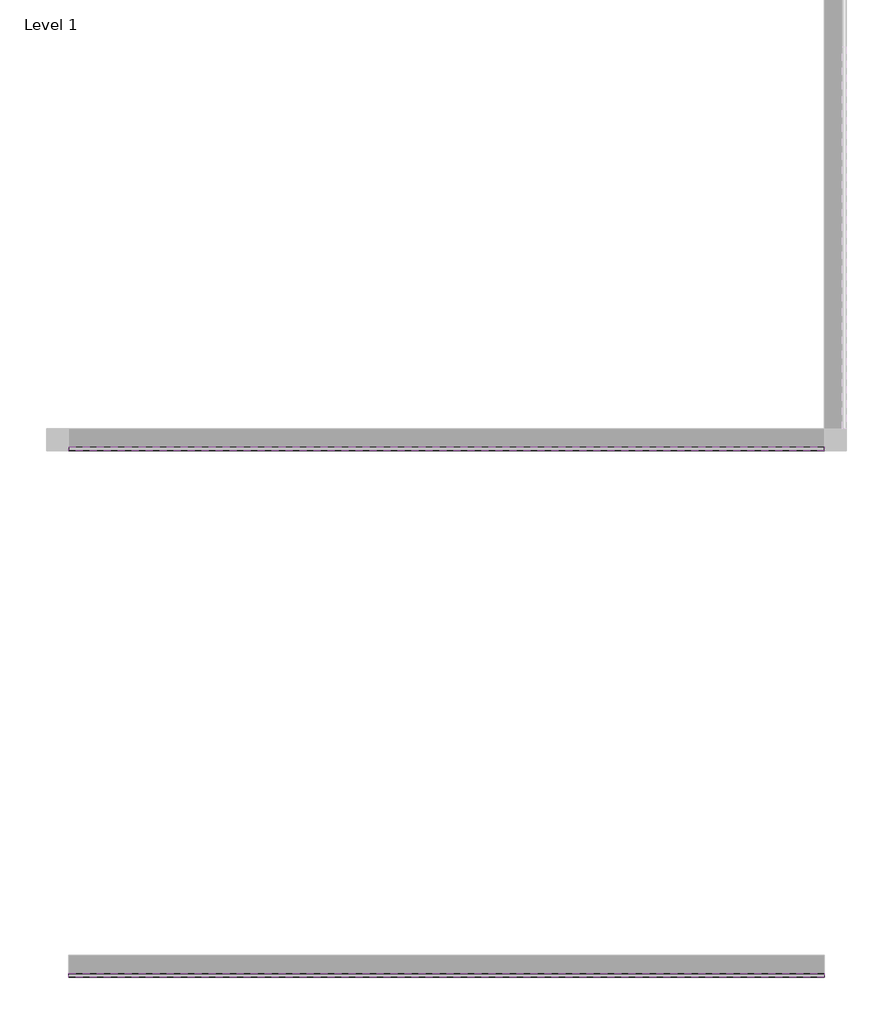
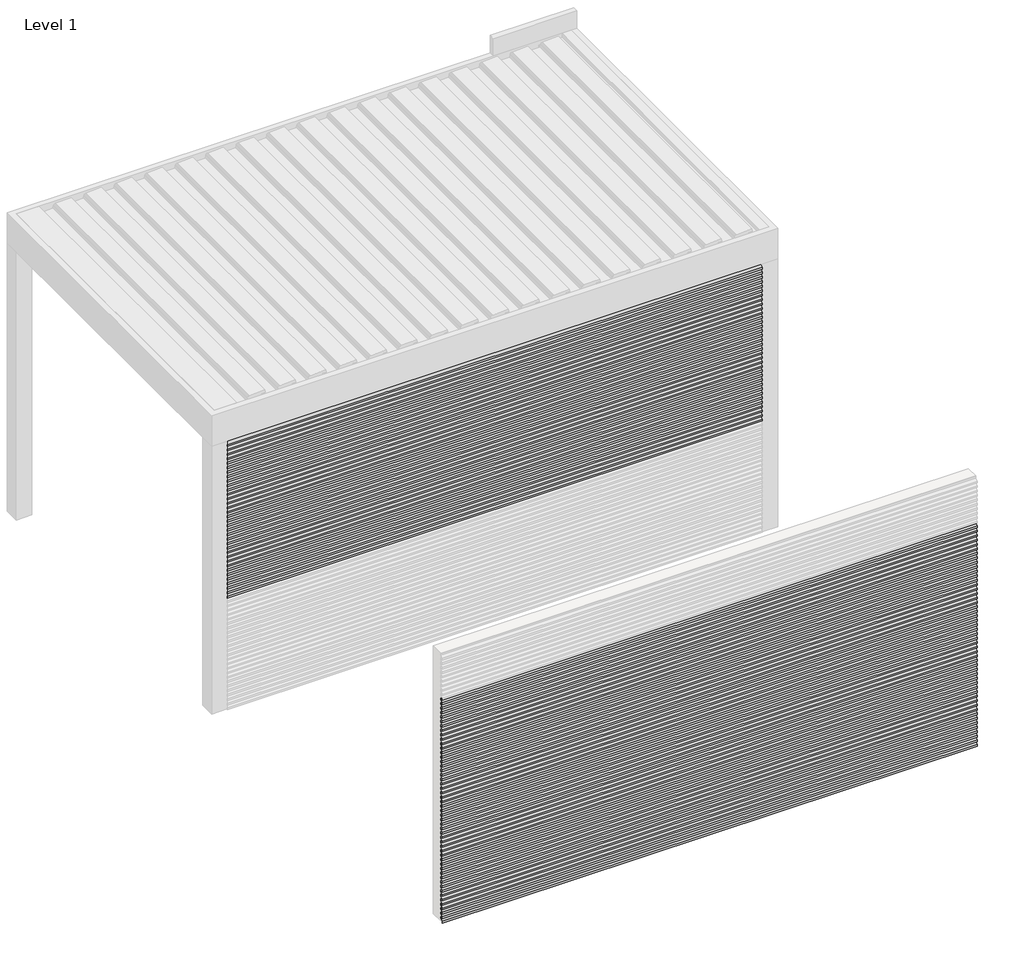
# One storey, part 36 of 47: 85 proxies.
"""IFC4 building model written with IfcOpenShell, lengths in millimetres."""

from ifc_helpers import new_model, si_unit, frame, origin, place, context, project, spatial, polyline, outline, extrude, element, save

model = new_model("IFC4")

# Units and contexts
model_context = context("Model", 3, world=origin())
ifc_project = project(units=[si_unit("LENGTHUNIT", "METRE", prefix="MILLI")], contexts=[model_context])

# Site, building, storey
site = spatial("IfcSite", under=ifc_project)
building = spatial("IfcBuilding", under=site)
storey = spatial("IfcBuildingStorey", under=building, Name="Level 1", Elevation=0.0)

# Proxies
placement = place(None, origin())
element("IfcBuildingElementProxy", 1, Name="Wall Sweeps", at=placement, inside=storey, context=model_context, shape_type="SweptSolid", body=[
    extrude(outline(polyline([(36890.3757764, 1641.0), (36909.5257764, 1652.0562577), (36909.5257764, 1665.0), (36910.7757764, 1665.0), (36910.7757764, 1651.3345698), (36891.6257764, 1640.2782281), (36891.6257764, 1628.2216933), (36890.3757764, 1627.5), (36890.3757764, 1641.0)])), frame((186472.4238385, 0.0, 0.0), z_axis=(1.0, 0.0, 0.0), x_axis=(0.0, 1.0, 0.0)), (0.0, 0.0, 1.0), 3780.0),
])
element("IfcBuildingElementProxy", 2, Name="Wall Sweeps", at=placement, inside=storey, context=model_context, shape_type="SweptSolid", body=[
    extrude(outline(polyline([(36890.3757764, 1607.7), (36909.5257764, 1618.7562577), (36909.5257764, 1631.7), (36910.7757764, 1631.7), (36910.7757764, 1618.0345698), (36891.6257764, 1606.9782281), (36891.6257764, 1594.9216933), (36890.3757764, 1594.2), (36890.3757764, 1607.7)])), frame((186472.4238385, 0.0, 0.0), z_axis=(1.0, 0.0, 0.0), x_axis=(0.0, 1.0, 0.0)), (0.0, 0.0, 1.0), 3780.0),
])
element("IfcBuildingElementProxy", 3, Name="Wall Sweeps", at=placement, inside=storey, context=model_context, shape_type="SweptSolid", body=[
    extrude(outline(polyline([(36890.3757764, 1574.4), (36909.5257764, 1585.4562577), (36909.5257764, 1598.4), (36910.7757764, 1598.4), (36910.7757764, 1584.7345698), (36891.6257764, 1573.6782281), (36891.6257764, 1561.6216933), (36890.3757764, 1560.9), (36890.3757764, 1574.4)])), frame((186472.4238385, 0.0, 0.0), z_axis=(1.0, 0.0, 0.0), x_axis=(0.0, 1.0, 0.0)), (0.0, 0.0, 1.0), 3780.0),
])
element("IfcBuildingElementProxy", 4, Name="Wall Sweeps", at=placement, inside=storey, context=model_context, shape_type="SweptSolid", body=[
    extrude(outline(polyline([(36890.3757764, 1541.1), (36909.5257764, 1552.1562577), (36909.5257764, 1565.1), (36910.7757764, 1565.1), (36910.7757764, 1551.4345698), (36891.6257764, 1540.3782281), (36891.6257764, 1528.3216933), (36890.3757764, 1527.6), (36890.3757764, 1541.1)])), frame((186472.4238385, 0.0, 0.0), z_axis=(1.0, 0.0, 0.0), x_axis=(0.0, 1.0, 0.0)), (0.0, 0.0, 1.0), 3780.0),
])
element("IfcBuildingElementProxy", 5, Name="Wall Sweeps", at=placement, inside=storey, context=model_context, shape_type="SweptSolid", body=[
    extrude(outline(polyline([(36890.3757764, 1507.8), (36909.5257764, 1518.8562577), (36909.5257764, 1531.8), (36910.7757764, 1531.8), (36910.7757764, 1518.1345698), (36891.6257764, 1507.0782281), (36891.6257764, 1495.0216933), (36890.3757764, 1494.3), (36890.3757764, 1507.8)])), frame((186472.4238385, 0.0, 0.0), z_axis=(1.0, 0.0, 0.0), x_axis=(0.0, 1.0, 0.0)), (0.0, 0.0, 1.0), 3780.0),
])
element("IfcBuildingElementProxy", 6, Name="Wall Sweeps", at=placement, inside=storey, context=model_context, shape_type="SweptSolid", body=[
    extrude(outline(polyline([(36890.3757764, 1474.5), (36909.5257764, 1485.5562577), (36909.5257764, 1498.5), (36910.7757764, 1498.5), (36910.7757764, 1484.8345698), (36891.6257764, 1473.7782281), (36891.6257764, 1461.7216933), (36890.3757764, 1461.0), (36890.3757764, 1474.5)])), frame((186472.4238385, 0.0, 0.0), z_axis=(1.0, 0.0, 0.0), x_axis=(0.0, 1.0, 0.0)), (0.0, 0.0, 1.0), 3780.0),
])
element("IfcBuildingElementProxy", 7, Name="Wall Sweeps", at=placement, inside=storey, context=model_context, shape_type="SweptSolid", body=[
    extrude(outline(polyline([(36890.3757764, 1441.2), (36909.5257764, 1452.2562577), (36909.5257764, 1465.2), (36910.7757764, 1465.2), (36910.7757764, 1451.5345698), (36891.6257764, 1440.4782281), (36891.6257764, 1428.4216933), (36890.3757764, 1427.7), (36890.3757764, 1441.2)])), frame((186472.4238385, 0.0, 0.0), z_axis=(1.0, 0.0, 0.0), x_axis=(0.0, 1.0, 0.0)), (0.0, 0.0, 1.0), 3780.0),
])
element("IfcBuildingElementProxy", 8, Name="Wall Sweeps", at=placement, inside=storey, context=model_context, shape_type="SweptSolid", body=[
    extrude(outline(polyline([(36890.3757764, 1407.9), (36909.5257764, 1418.9562577), (36909.5257764, 1431.9), (36910.7757764, 1431.9), (36910.7757764, 1418.2345698), (36891.6257764, 1407.1782281), (36891.6257764, 1395.1216933), (36890.3757764, 1394.4), (36890.3757764, 1407.9)])), frame((186472.4238385, 0.0, 0.0), z_axis=(1.0, 0.0, 0.0), x_axis=(0.0, 1.0, 0.0)), (0.0, 0.0, 1.0), 3780.0),
])
element("IfcBuildingElementProxy", 9, Name="Wall Sweeps", at=placement, inside=storey, context=model_context, shape_type="SweptSolid", body=[
    extrude(outline(polyline([(36890.3757764, 1374.6), (36909.5257764, 1385.6562577), (36909.5257764, 1398.6), (36910.7757764, 1398.6), (36910.7757764, 1384.9345698), (36891.6257764, 1373.8782281), (36891.6257764, 1361.8216933), (36890.3757764, 1361.1), (36890.3757764, 1374.6)])), frame((186472.4238385, 0.0, 0.0), z_axis=(1.0, 0.0, 0.0), x_axis=(0.0, 1.0, 0.0)), (0.0, 0.0, 1.0), 3780.0),
])
element("IfcBuildingElementProxy", 10, Name="Wall Sweeps", at=placement, inside=storey, context=model_context, shape_type="SweptSolid", body=[
    extrude(outline(polyline([(36890.3757764, 1341.3), (36909.5257764, 1352.3562577), (36909.5257764, 1365.3), (36910.7757764, 1365.3), (36910.7757764, 1351.6345698), (36891.6257764, 1340.5782281), (36891.6257764, 1328.5216933), (36890.3757764, 1327.8), (36890.3757764, 1341.3)])), frame((186472.4238385, 0.0, 0.0), z_axis=(1.0, 0.0, 0.0), x_axis=(0.0, 1.0, 0.0)), (0.0, 0.0, 1.0), 3780.0),
])
element("IfcBuildingElementProxy", 11, Name="Wall Sweeps", at=placement, inside=storey, context=model_context, shape_type="SweptSolid", body=[
    extrude(outline(polyline([(36890.3757764, 1308.0), (36909.5257764, 1319.0562577), (36909.5257764, 1332.0), (36910.7757764, 1332.0), (36910.7757764, 1318.3345698), (36891.6257764, 1307.2782281), (36891.6257764, 1295.2216933), (36890.3757764, 1294.5), (36890.3757764, 1308.0)])), frame((186472.4238385, 0.0, 0.0), z_axis=(1.0, 0.0, 0.0), x_axis=(0.0, 1.0, 0.0)), (0.0, 0.0, 1.0), 3780.0),
])
element("IfcBuildingElementProxy", 12, Name="Wall Sweeps", at=placement, inside=storey, context=model_context, shape_type="SweptSolid", body=[
    extrude(outline(polyline([(36890.3757764, 1274.7), (36909.5257764, 1285.7562577), (36909.5257764, 1298.7), (36910.7757764, 1298.7), (36910.7757764, 1285.0345698), (36891.6257764, 1273.9782281), (36891.6257764, 1261.9216933), (36890.3757764, 1261.2), (36890.3757764, 1274.7)])), frame((186472.4238385, 0.0, 0.0), z_axis=(1.0, 0.0, 0.0), x_axis=(0.0, 1.0, 0.0)), (0.0, 0.0, 1.0), 3780.0),
])
element("IfcBuildingElementProxy", 13, Name="Wall Sweeps", at=placement, inside=storey, context=model_context, shape_type="SweptSolid", body=[
    extrude(outline(polyline([(36890.3757764, 1241.4), (36909.5257764, 1252.4562577), (36909.5257764, 1265.4), (36910.7757764, 1265.4), (36910.7757764, 1251.7345698), (36891.6257764, 1240.6782281), (36891.6257764, 1228.6216933), (36890.3757764, 1227.9), (36890.3757764, 1241.4)])), frame((186472.4238385, 0.0, 0.0), z_axis=(1.0, 0.0, 0.0), x_axis=(0.0, 1.0, 0.0)), (0.0, 0.0, 1.0), 3780.0),
])
element("IfcBuildingElementProxy", 14, Name="Wall Sweeps", at=placement, inside=storey, context=model_context, shape_type="SweptSolid", body=[
    extrude(outline(polyline([(36890.3757764, 1208.1), (36909.5257764, 1219.1562577), (36909.5257764, 1232.1), (36910.7757764, 1232.1), (36910.7757764, 1218.4345698), (36891.6257764, 1207.3782281), (36891.6257764, 1195.3216933), (36890.3757764, 1194.6), (36890.3757764, 1208.1)])), frame((186472.4238385, 0.0, 0.0), z_axis=(1.0, 0.0, 0.0), x_axis=(0.0, 1.0, 0.0)), (0.0, 0.0, 1.0), 3780.0),
])
element("IfcBuildingElementProxy", 15, Name="Wall Sweeps", at=placement, inside=storey, context=model_context, shape_type="SweptSolid", body=[
    extrude(outline(polyline([(36890.3757764, 1174.8), (36909.5257764, 1185.8562577), (36909.5257764, 1198.8), (36910.7757764, 1198.8), (36910.7757764, 1185.1345698), (36891.6257764, 1174.0782281), (36891.6257764, 1162.0216933), (36890.3757764, 1161.3), (36890.3757764, 1174.8)])), frame((186472.4238385, 0.0, 0.0), z_axis=(1.0, 0.0, 0.0), x_axis=(0.0, 1.0, 0.0)), (0.0, 0.0, 1.0), 3780.0),
])
element("IfcBuildingElementProxy", 16, Name="Wall Sweeps", at=placement, inside=storey, context=model_context, shape_type="SweptSolid", body=[
    extrude(outline(polyline([(36890.3757764, 1141.5), (36909.5257764, 1152.5562577), (36909.5257764, 1165.5), (36910.7757764, 1165.5), (36910.7757764, 1151.8345698), (36891.6257764, 1140.7782281), (36891.6257764, 1128.7216933), (36890.3757764, 1128.0), (36890.3757764, 1141.5)])), frame((186472.4238385, 0.0, 0.0), z_axis=(1.0, 0.0, 0.0), x_axis=(0.0, 1.0, 0.0)), (0.0, 0.0, 1.0), 3780.0),
])
element("IfcBuildingElementProxy", 17, Name="Wall Sweeps", at=placement, inside=storey, context=model_context, shape_type="SweptSolid", body=[
    extrude(outline(polyline([(36890.3757764, 1108.2), (36909.5257764, 1119.2562577), (36909.5257764, 1132.2), (36910.7757764, 1132.2), (36910.7757764, 1118.5345698), (36891.6257764, 1107.4782281), (36891.6257764, 1095.4216933), (36890.3757764, 1094.7), (36890.3757764, 1108.2)])), frame((186472.4238385, 0.0, 0.0), z_axis=(1.0, 0.0, 0.0), x_axis=(0.0, 1.0, 0.0)), (0.0, 0.0, 1.0), 3780.0),
])
element("IfcBuildingElementProxy", 18, Name="Wall Sweeps", at=placement, inside=storey, context=model_context, shape_type="SweptSolid", body=[
    extrude(outline(polyline([(36890.3757764, 1074.9), (36909.5257764, 1085.9562577), (36909.5257764, 1098.9), (36910.7757764, 1098.9), (36910.7757764, 1085.2345698), (36891.6257764, 1074.1782281), (36891.6257764, 1062.1216933), (36890.3757764, 1061.4), (36890.3757764, 1074.9)])), frame((186472.4238385, 0.0, 0.0), z_axis=(1.0, 0.0, 0.0), x_axis=(0.0, 1.0, 0.0)), (0.0, 0.0, 1.0), 3780.0),
])
element("IfcBuildingElementProxy", 19, Name="Wall Sweeps", at=placement, inside=storey, context=model_context, shape_type="SweptSolid", body=[
    extrude(outline(polyline([(36890.3757764, 1041.6), (36909.5257764, 1052.6562577), (36909.5257764, 1065.6), (36910.7757764, 1065.6), (36910.7757764, 1051.9345698), (36891.6257764, 1040.8782281), (36891.6257764, 1028.8216933), (36890.3757764, 1028.1), (36890.3757764, 1041.6)])), frame((186472.4238385, 0.0, 0.0), z_axis=(1.0, 0.0, 0.0), x_axis=(0.0, 1.0, 0.0)), (0.0, 0.0, 1.0), 3780.0),
])
element("IfcBuildingElementProxy", 20, Name="Wall Sweeps", at=placement, inside=storey, context=model_context, shape_type="SweptSolid", body=[
    extrude(outline(polyline([(36890.3757764, 1008.3), (36909.5257764, 1019.3562577), (36909.5257764, 1032.3), (36910.7757764, 1032.3), (36910.7757764, 1018.6345698), (36891.6257764, 1007.5782281), (36891.6257764, 995.5216933), (36890.3757764, 994.8), (36890.3757764, 1008.3)])), frame((186472.4238385, 0.0, 0.0), z_axis=(1.0, 0.0, 0.0), x_axis=(0.0, 1.0, 0.0)), (0.0, 0.0, 1.0), 3780.0),
])
element("IfcBuildingElementProxy", 21, Name="Wall Sweeps", at=placement, inside=storey, context=model_context, shape_type="SweptSolid", body=[
    extrude(outline(polyline([(36890.3757764, 975.0), (36909.5257764, 986.0562577), (36909.5257764, 999.0), (36910.7757764, 999.0), (36910.7757764, 985.3345698), (36891.6257764, 974.2782281), (36891.6257764, 962.2216933), (36890.3757764, 961.5), (36890.3757764, 975.0)])), frame((186472.4238385, 0.0, 0.0), z_axis=(1.0, 0.0, 0.0), x_axis=(0.0, 1.0, 0.0)), (0.0, 0.0, 1.0), 3780.0),
])
element("IfcBuildingElementProxy", 22, Name="Wall Sweeps", at=placement, inside=storey, context=model_context, shape_type="SweptSolid", body=[
    extrude(outline(polyline([(36890.3757764, 941.7), (36909.5257764, 952.7562577), (36909.5257764, 965.7), (36910.7757764, 965.7), (36910.7757764, 952.0345698), (36891.6257764, 940.9782281), (36891.6257764, 928.9216933), (36890.3757764, 928.2), (36890.3757764, 941.7)])), frame((186472.4238385, 0.0, 0.0), z_axis=(1.0, 0.0, 0.0), x_axis=(0.0, 1.0, 0.0)), (0.0, 0.0, 1.0), 3780.0),
])
element("IfcBuildingElementProxy", 23, Name="Wall Sweeps", at=placement, inside=storey, context=model_context, shape_type="SweptSolid", body=[
    extrude(outline(polyline([(36890.3757764, 908.4), (36909.5257764, 919.4562577), (36909.5257764, 932.4), (36910.7757764, 932.4), (36910.7757764, 918.7345698), (36891.6257764, 907.6782281), (36891.6257764, 895.6216933), (36890.3757764, 894.9), (36890.3757764, 908.4)])), frame((186472.4238385, 0.0, 0.0), z_axis=(1.0, 0.0, 0.0), x_axis=(0.0, 1.0, 0.0)), (0.0, 0.0, 1.0), 3780.0),
])
element("IfcBuildingElementProxy", 24, Name="Wall Sweeps", at=placement, inside=storey, context=model_context, shape_type="SweptSolid", body=[
    extrude(outline(polyline([(36890.3757764, 875.1), (36909.5257764, 886.1562577), (36909.5257764, 899.1), (36910.7757764, 899.1), (36910.7757764, 885.4345698), (36891.6257764, 874.3782281), (36891.6257764, 862.3216933), (36890.3757764, 861.6), (36890.3757764, 875.1)])), frame((186472.4238385, 0.0, 0.0), z_axis=(1.0, 0.0, 0.0), x_axis=(0.0, 1.0, 0.0)), (0.0, 0.0, 1.0), 3780.0),
])
element("IfcBuildingElementProxy", 25, Name="Wall Sweeps", at=placement, inside=storey, context=model_context, shape_type="SweptSolid", body=[
    extrude(outline(polyline([(36890.3757764, 841.8), (36909.5257764, 852.8562577), (36909.5257764, 865.8), (36910.7757764, 865.8), (36910.7757764, 852.1345698), (36891.6257764, 841.0782281), (36891.6257764, 829.0216933), (36890.3757764, 828.3), (36890.3757764, 841.8)])), frame((186472.4238385, 0.0, 0.0), z_axis=(1.0, 0.0, 0.0), x_axis=(0.0, 1.0, 0.0)), (0.0, 0.0, 1.0), 3780.0),
])
element("IfcBuildingElementProxy", 26, Name="Wall Sweeps", at=placement, inside=storey, context=model_context, shape_type="SweptSolid", body=[
    extrude(outline(polyline([(36890.3757764, 808.5), (36909.5257764, 819.5562577), (36909.5257764, 832.5), (36910.7757764, 832.5), (36910.7757764, 818.8345698), (36891.6257764, 807.7782281), (36891.6257764, 795.7216933), (36890.3757764, 795.0), (36890.3757764, 808.5)])), frame((186472.4238385, 0.0, 0.0), z_axis=(1.0, 0.0, 0.0), x_axis=(0.0, 1.0, 0.0)), (0.0, 0.0, 1.0), 3780.0),
])
element("IfcBuildingElementProxy", 27, Name="Wall Sweeps", at=placement, inside=storey, context=model_context, shape_type="SweptSolid", body=[
    extrude(outline(polyline([(36890.3757764, 775.2), (36909.5257764, 786.2562577), (36909.5257764, 799.2), (36910.7757764, 799.2), (36910.7757764, 785.5345698), (36891.6257764, 774.4782281), (36891.6257764, 762.4216933), (36890.3757764, 761.7), (36890.3757764, 775.2)])), frame((186472.4238385, 0.0, 0.0), z_axis=(1.0, 0.0, 0.0), x_axis=(0.0, 1.0, 0.0)), (0.0, 0.0, 1.0), 3780.0),
])
element("IfcBuildingElementProxy", 28, Name="Wall Sweeps", at=placement, inside=storey, context=model_context, shape_type="SweptSolid", body=[
    extrude(outline(polyline([(36890.3757764, 741.9), (36909.5257764, 752.9562577), (36909.5257764, 765.9), (36910.7757764, 765.9), (36910.7757764, 752.2345698), (36891.6257764, 741.1782281), (36891.6257764, 729.1216933), (36890.3757764, 728.4), (36890.3757764, 741.9)])), frame((186472.4238385, 0.0, 0.0), z_axis=(1.0, 0.0, 0.0), x_axis=(0.0, 1.0, 0.0)), (0.0, 0.0, 1.0), 3780.0),
])
element("IfcBuildingElementProxy", 29, Name="Wall Sweeps", at=placement, inside=storey, context=model_context, shape_type="SweptSolid", body=[
    extrude(outline(polyline([(36890.3757764, 708.6), (36909.5257764, 719.6562577), (36909.5257764, 732.6), (36910.7757764, 732.6), (36910.7757764, 718.9345698), (36891.6257764, 707.8782281), (36891.6257764, 695.8216933), (36890.3757764, 695.1), (36890.3757764, 708.6)])), frame((186472.4238385, 0.0, 0.0), z_axis=(1.0, 0.0, 0.0), x_axis=(0.0, 1.0, 0.0)), (0.0, 0.0, 1.0), 3780.0),
])
element("IfcBuildingElementProxy", 30, Name="Wall Sweeps", at=placement, inside=storey, context=model_context, shape_type="SweptSolid", body=[
    extrude(outline(polyline([(36890.3757764, 675.3), (36909.5257764, 686.3562577), (36909.5257764, 699.3), (36910.7757764, 699.3), (36910.7757764, 685.6345698), (36891.6257764, 674.5782281), (36891.6257764, 662.5216933), (36890.3757764, 661.8), (36890.3757764, 675.3)])), frame((186472.4238385, 0.0, 0.0), z_axis=(1.0, 0.0, 0.0), x_axis=(0.0, 1.0, 0.0)), (0.0, 0.0, 1.0), 3780.0),
])
element("IfcBuildingElementProxy", 31, Name="Wall Sweeps", at=placement, inside=storey, context=model_context, shape_type="SweptSolid", body=[
    extrude(outline(polyline([(36890.3757764, 642.0), (36909.5257764, 653.0562577), (36909.5257764, 666.0), (36910.7757764, 666.0), (36910.7757764, 652.3345698), (36891.6257764, 641.2782281), (36891.6257764, 629.2216933), (36890.3757764, 628.5), (36890.3757764, 642.0)])), frame((186472.4238385, 0.0, 0.0), z_axis=(1.0, 0.0, 0.0), x_axis=(0.0, 1.0, 0.0)), (0.0, 0.0, 1.0), 3780.0),
])
element("IfcBuildingElementProxy", 32, Name="Wall Sweeps", at=placement, inside=storey, context=model_context, shape_type="SweptSolid", body=[
    extrude(outline(polyline([(36890.3757764, 608.7), (36909.5257764, 619.7562577), (36909.5257764, 632.7), (36910.7757764, 632.7), (36910.7757764, 619.0345698), (36891.6257764, 607.9782281), (36891.6257764, 595.9216933), (36890.3757764, 595.2), (36890.3757764, 608.7)])), frame((186472.4238385, 0.0, 0.0), z_axis=(1.0, 0.0, 0.0), x_axis=(0.0, 1.0, 0.0)), (0.0, 0.0, 1.0), 3780.0),
])
element("IfcBuildingElementProxy", 33, Name="Wall Sweeps", at=placement, inside=storey, context=model_context, shape_type="SweptSolid", body=[
    extrude(outline(polyline([(36890.3757764, 575.4), (36909.5257764, 586.4562577), (36909.5257764, 599.4), (36910.7757764, 599.4), (36910.7757764, 585.7345698), (36891.6257764, 574.6782281), (36891.6257764, 562.6216933), (36890.3757764, 561.9), (36890.3757764, 575.4)])), frame((186472.4238385, 0.0, 0.0), z_axis=(1.0, 0.0, 0.0), x_axis=(0.0, 1.0, 0.0)), (0.0, 0.0, 1.0), 3780.0),
])
element("IfcBuildingElementProxy", 34, Name="Wall Sweeps", at=placement, inside=storey, context=model_context, shape_type="SweptSolid", body=[
    extrude(outline(polyline([(36890.3757764, 542.1), (36909.5257764, 553.1562577), (36909.5257764, 566.1), (36910.7757764, 566.1), (36910.7757764, 552.4345698), (36891.6257764, 541.3782281), (36891.6257764, 529.3216933), (36890.3757764, 528.6), (36890.3757764, 542.1)])), frame((186472.4238385, 0.0, 0.0), z_axis=(1.0, 0.0, 0.0), x_axis=(0.0, 1.0, 0.0)), (0.0, 0.0, 1.0), 3780.0),
])
element("IfcBuildingElementProxy", 35, Name="Wall Sweeps", at=placement, inside=storey, context=model_context, shape_type="SweptSolid", body=[
    extrude(outline(polyline([(36890.3757764, 508.8), (36909.5257764, 519.8562577), (36909.5257764, 532.8), (36910.7757764, 532.8), (36910.7757764, 519.1345698), (36891.6257764, 508.0782281), (36891.6257764, 496.0216933), (36890.3757764, 495.3), (36890.3757764, 508.8)])), frame((186472.4238385, 0.0, 0.0), z_axis=(1.0, 0.0, 0.0), x_axis=(0.0, 1.0, 0.0)), (0.0, 0.0, 1.0), 3780.0),
])
element("IfcBuildingElementProxy", 36, Name="Wall Sweeps", at=placement, inside=storey, context=model_context, shape_type="SweptSolid", body=[
    extrude(outline(polyline([(36890.3757764, 475.5), (36909.5257764, 486.5562577), (36909.5257764, 499.5), (36910.7757764, 499.5), (36910.7757764, 485.8345698), (36891.6257764, 474.7782281), (36891.6257764, 462.7216933), (36890.3757764, 462.0), (36890.3757764, 475.5)])), frame((186472.4238385, 0.0, 0.0), z_axis=(1.0, 0.0, 0.0), x_axis=(0.0, 1.0, 0.0)), (0.0, 0.0, 1.0), 3780.0),
])
element("IfcBuildingElementProxy", 37, Name="Wall Sweeps", at=placement, inside=storey, context=model_context, shape_type="SweptSolid", body=[
    extrude(outline(polyline([(36890.3757764, 442.2), (36909.5257764, 453.2562577), (36909.5257764, 466.2), (36910.7757764, 466.2), (36910.7757764, 452.5345698), (36891.6257764, 441.4782281), (36891.6257764, 429.4216933), (36890.3757764, 428.7), (36890.3757764, 442.2)])), frame((186472.4238385, 0.0, 0.0), z_axis=(1.0, 0.0, 0.0), x_axis=(0.0, 1.0, 0.0)), (0.0, 0.0, 1.0), 3780.0),
])
element("IfcBuildingElementProxy", 38, Name="Wall Sweeps", at=placement, inside=storey, context=model_context, shape_type="SweptSolid", body=[
    extrude(outline(polyline([(36890.3757764, 408.9), (36909.5257764, 419.9562577), (36909.5257764, 432.9), (36910.7757764, 432.9), (36910.7757764, 419.2345698), (36891.6257764, 408.1782281), (36891.6257764, 396.1216933), (36890.3757764, 395.4), (36890.3757764, 408.9)])), frame((186472.4238385, 0.0, 0.0), z_axis=(1.0, 0.0, 0.0), x_axis=(0.0, 1.0, 0.0)), (0.0, 0.0, 1.0), 3780.0),
])
element("IfcBuildingElementProxy", 39, Name="Wall Sweeps", at=placement, inside=storey, context=model_context, shape_type="SweptSolid", body=[
    extrude(outline(polyline([(36890.3757764, 375.6), (36909.5257764, 386.6562577), (36909.5257764, 399.6), (36910.7757764, 399.6), (36910.7757764, 385.9345698), (36891.6257764, 374.8782281), (36891.6257764, 362.8216933), (36890.3757764, 362.1), (36890.3757764, 375.6)])), frame((186472.4238385, 0.0, 0.0), z_axis=(1.0, 0.0, 0.0), x_axis=(0.0, 1.0, 0.0)), (0.0, 0.0, 1.0), 3780.0),
])
element("IfcBuildingElementProxy", 40, Name="Wall Sweeps", at=placement, inside=storey, context=model_context, shape_type="SweptSolid", body=[
    extrude(outline(polyline([(36890.3757764, 342.3), (36909.5257764, 353.3562577), (36909.5257764, 366.3), (36910.7757764, 366.3), (36910.7757764, 352.6345698), (36891.6257764, 341.5782281), (36891.6257764, 329.5216933), (36890.3757764, 328.8), (36890.3757764, 342.3)])), frame((186472.4238385, 0.0, 0.0), z_axis=(1.0, 0.0, 0.0), x_axis=(0.0, 1.0, 0.0)), (0.0, 0.0, 1.0), 3780.0),
])
element("IfcBuildingElementProxy", 41, Name="Wall Sweeps", at=placement, inside=storey, context=model_context, shape_type="SweptSolid", body=[
    extrude(outline(polyline([(36890.3757764, 309.0), (36909.5257764, 320.0562577), (36909.5257764, 333.0), (36910.7757764, 333.0), (36910.7757764, 319.3345698), (36891.6257764, 308.2782281), (36891.6257764, 296.2216933), (36890.3757764, 295.5), (36890.3757764, 309.0)])), frame((186472.4238385, 0.0, 0.0), z_axis=(1.0, 0.0, 0.0), x_axis=(0.0, 1.0, 0.0)), (0.0, 0.0, 1.0), 3780.0),
])
element("IfcBuildingElementProxy", 42, Name="Wall Sweeps", at=placement, inside=storey, context=model_context, shape_type="SweptSolid", body=[
    extrude(outline(polyline([(36890.3757764, 275.7), (36909.5257764, 286.7562577), (36909.5257764, 299.7), (36910.7757764, 299.7), (36910.7757764, 286.0345698), (36891.6257764, 274.9782281), (36891.6257764, 262.9216933), (36890.3757764, 262.2), (36890.3757764, 275.7)])), frame((186472.4238385, 0.0, 0.0), z_axis=(1.0, 0.0, 0.0), x_axis=(0.0, 1.0, 0.0)), (0.0, 0.0, 1.0), 3780.0),
])
element("IfcBuildingElementProxy", 43, Name="Wall Sweeps", at=placement, inside=storey, context=model_context, shape_type="SweptSolid", body=[
    extrude(outline(polyline([(36890.3757764, 242.4), (36909.5257764, 253.4562577), (36909.5257764, 266.4), (36910.7757764, 266.4), (36910.7757764, 252.7345698), (36891.6257764, 241.6782281), (36891.6257764, 229.6216933), (36890.3757764, 228.9), (36890.3757764, 242.4)])), frame((186472.4238385, 0.0, 0.0), z_axis=(1.0, 0.0, 0.0), x_axis=(0.0, 1.0, 0.0)), (0.0, 0.0, 1.0), 3780.0),
])
element("IfcBuildingElementProxy", 44, Name="Wall Sweeps", at=placement, inside=storey, context=model_context, shape_type="SweptSolid", body=[
    extrude(outline(polyline([(36890.3757764, 209.1), (36909.5257764, 220.1562577), (36909.5257764, 233.1), (36910.7757764, 233.1), (36910.7757764, 219.4345698), (36891.6257764, 208.3782281), (36891.6257764, 196.3216933), (36890.3757764, 195.6), (36890.3757764, 209.1)])), frame((186472.4238385, 0.0, 0.0), z_axis=(1.0, 0.0, 0.0), x_axis=(0.0, 1.0, 0.0)), (0.0, 0.0, 1.0), 3780.0),
])
element("IfcBuildingElementProxy", 45, Name="Wall Sweeps", at=placement, inside=storey, context=model_context, shape_type="SweptSolid", body=[
    extrude(outline(polyline([(36890.3757764, 175.8), (36909.5257764, 186.8562577), (36909.5257764, 199.8), (36910.7757764, 199.8), (36910.7757764, 186.1345698), (36891.6257764, 175.0782281), (36891.6257764, 163.0216933), (36890.3757764, 162.3), (36890.3757764, 175.8)])), frame((186472.4238385, 0.0, 0.0), z_axis=(1.0, 0.0, 0.0), x_axis=(0.0, 1.0, 0.0)), (0.0, 0.0, 1.0), 3780.0),
])
element("IfcBuildingElementProxy", 46, Name="Wall Sweeps", at=placement, inside=storey, context=model_context, shape_type="SweptSolid", body=[
    extrude(outline(polyline([(36890.3757764, 142.5), (36909.5257764, 153.5562577), (36909.5257764, 166.5), (36910.7757764, 166.5), (36910.7757764, 152.8345698), (36891.6257764, 141.7782281), (36891.6257764, 129.7216933), (36890.3757764, 129.0), (36890.3757764, 142.5)])), frame((186472.4238385, 0.0, 0.0), z_axis=(1.0, 0.0, 0.0), x_axis=(0.0, 1.0, 0.0)), (0.0, 0.0, 1.0), 3780.0),
])
element("IfcBuildingElementProxy", 47, Name="Wall Sweeps", at=placement, inside=storey, context=model_context, shape_type="SweptSolid", body=[
    extrude(outline(polyline([(36890.3757764, 109.2), (36909.5257764, 120.2562577), (36909.5257764, 133.2), (36910.7757764, 133.2), (36910.7757764, 119.5345698), (36891.6257764, 108.4782281), (36891.6257764, 96.4216933), (36890.3757764, 95.7), (36890.3757764, 109.2)])), frame((186472.4238385, 0.0, 0.0), z_axis=(1.0, 0.0, 0.0), x_axis=(0.0, 1.0, 0.0)), (0.0, 0.0, 1.0), 3780.0),
])
element("IfcBuildingElementProxy", 48, Name="Wall Sweeps", at=placement, inside=storey, context=model_context, shape_type="SweptSolid", body=[
    extrude(outline(polyline([(36890.3757764, 75.9), (36909.5257764, 86.9562577), (36909.5257764, 99.9), (36910.7757764, 99.9), (36910.7757764, 86.2345698), (36891.6257764, 75.1782281), (36891.6257764, 63.1216933), (36890.3757764, 62.4), (36890.3757764, 75.9)])), frame((186472.4238385, 0.0, 0.0), z_axis=(1.0, 0.0, 0.0), x_axis=(0.0, 1.0, 0.0)), (0.0, 0.0, 1.0), 3780.0),
])
element("IfcBuildingElementProxy", 49, Name="Wall Sweeps", at=placement, inside=storey, context=model_context, shape_type="SweptSolid", body=[
    extrude(outline(polyline([(36890.3757764, 42.6), (36909.5257764, 53.6562577), (36909.5257764, 66.6), (36910.7757764, 66.6), (36910.7757764, 52.9345698), (36891.6257764, 41.8782281), (36891.6257764, 29.8216933), (36890.3757764, 29.1), (36890.3757764, 42.6)])), frame((186472.4238385, 0.0, 0.0), z_axis=(1.0, 0.0, 0.0), x_axis=(0.0, 1.0, 0.0)), (0.0, 0.0, 1.0), 3780.0),
])
element("IfcBuildingElementProxy", 50, Name="Wall Sweeps", at=placement, inside=storey, context=model_context, shape_type="SweptSolid", body=[
    extrude(outline(polyline([(36890.3757764, 9.3), (36909.5257764, 20.3562577), (36909.5257764, 33.3), (36910.7757764, 33.3), (36910.7757764, 19.6345698), (36891.6257764, 8.5782281), (36891.6257764, -3.4783067), (36890.3757764, -4.2), (36890.3757764, 9.3)])), frame((186472.4238385, 0.0, 0.0), z_axis=(1.0, 0.0, 0.0), x_axis=(0.0, 1.0, 0.0)), (0.0, 0.0, 1.0), 3780.0),
])
element("IfcBuildingElementProxy", 51, Name="Wall Sweeps", at=placement, inside=storey, context=model_context, shape_type="SweptSolid", body=[
    extrude(outline(polyline([(39522.1593685, 1974.0), (39541.3093685, 1985.0562577), (39541.3093685, 1998.0), (39542.5593685, 1998.0), (39542.5593685, 1984.3345698), (39523.4093685, 1973.2782281), (39523.4093685, 1961.2216933), (39522.1593685, 1960.5), (39522.1593685, 1974.0)])), frame((186472.4238385, 0.0, 0.0), z_axis=(1.0, 0.0, 0.0), x_axis=(0.0, 1.0, 0.0)), (0.0, 0.0, 1.0), 3780.0),
])
element("IfcBuildingElementProxy", 52, Name="Wall Sweeps", at=placement, inside=storey, context=model_context, shape_type="SweptSolid", body=[
    extrude(outline(polyline([(39522.1593685, 1940.7), (39541.3093685, 1951.7562577), (39541.3093685, 1964.7), (39542.5593685, 1964.7), (39542.5593685, 1951.0345698), (39523.4093685, 1939.9782281), (39523.4093685, 1927.9216933), (39522.1593685, 1927.2), (39522.1593685, 1940.7)])), frame((186472.4238385, 0.0, 0.0), z_axis=(1.0, 0.0, 0.0), x_axis=(0.0, 1.0, 0.0)), (0.0, 0.0, 1.0), 3780.0),
])
element("IfcBuildingElementProxy", 53, Name="Wall Sweeps", at=placement, inside=storey, context=model_context, shape_type="SweptSolid", body=[
    extrude(outline(polyline([(39522.1593685, 1907.4), (39541.3093685, 1918.4562577), (39541.3093685, 1931.4), (39542.5593685, 1931.4), (39542.5593685, 1917.7345698), (39523.4093685, 1906.6782281), (39523.4093685, 1894.6216933), (39522.1593685, 1893.9), (39522.1593685, 1907.4)])), frame((186472.4238385, 0.0, 0.0), z_axis=(1.0, 0.0, 0.0), x_axis=(0.0, 1.0, 0.0)), (0.0, 0.0, 1.0), 3780.0),
])
element("IfcBuildingElementProxy", 54, Name="Wall Sweeps", at=placement, inside=storey, context=model_context, shape_type="SweptSolid", body=[
    extrude(outline(polyline([(39522.1593685, 1874.1), (39541.3093685, 1885.1562577), (39541.3093685, 1898.1), (39542.5593685, 1898.1), (39542.5593685, 1884.4345698), (39523.4093685, 1873.3782281), (39523.4093685, 1861.3216933), (39522.1593685, 1860.6), (39522.1593685, 1874.1)])), frame((186472.4238385, 0.0, 0.0), z_axis=(1.0, 0.0, 0.0), x_axis=(0.0, 1.0, 0.0)), (0.0, 0.0, 1.0), 3780.0),
])
element("IfcBuildingElementProxy", 55, Name="Wall Sweeps", at=placement, inside=storey, context=model_context, shape_type="SweptSolid", body=[
    extrude(outline(polyline([(39522.1593685, 1840.8), (39541.3093685, 1851.8562577), (39541.3093685, 1864.8), (39542.5593685, 1864.8), (39542.5593685, 1851.1345698), (39523.4093685, 1840.0782281), (39523.4093685, 1828.0216933), (39522.1593685, 1827.3), (39522.1593685, 1840.8)])), frame((186472.4238385, 0.0, 0.0), z_axis=(1.0, 0.0, 0.0), x_axis=(0.0, 1.0, 0.0)), (0.0, 0.0, 1.0), 3780.0),
])
element("IfcBuildingElementProxy", 56, Name="Wall Sweeps", at=placement, inside=storey, context=model_context, shape_type="SweptSolid", body=[
    extrude(outline(polyline([(39522.1593685, 1807.5), (39541.3093685, 1818.5562577), (39541.3093685, 1831.5), (39542.5593685, 1831.5), (39542.5593685, 1817.8345698), (39523.4093685, 1806.7782281), (39523.4093685, 1794.7216933), (39522.1593685, 1794.0), (39522.1593685, 1807.5)])), frame((186472.4238385, 0.0, 0.0), z_axis=(1.0, 0.0, 0.0), x_axis=(0.0, 1.0, 0.0)), (0.0, 0.0, 1.0), 3780.0),
])
element("IfcBuildingElementProxy", 57, Name="Wall Sweeps", at=placement, inside=storey, context=model_context, shape_type="SweptSolid", body=[
    extrude(outline(polyline([(39522.1593685, 1774.2), (39541.3093685, 1785.2562577), (39541.3093685, 1798.2), (39542.5593685, 1798.2), (39542.5593685, 1784.5345698), (39523.4093685, 1773.4782281), (39523.4093685, 1761.4216933), (39522.1593685, 1760.7), (39522.1593685, 1774.2)])), frame((186472.4238385, 0.0, 0.0), z_axis=(1.0, 0.0, 0.0), x_axis=(0.0, 1.0, 0.0)), (0.0, 0.0, 1.0), 3780.0),
])
element("IfcBuildingElementProxy", 58, Name="Wall Sweeps", at=placement, inside=storey, context=model_context, shape_type="SweptSolid", body=[
    extrude(outline(polyline([(39522.1593685, 1740.9), (39541.3093685, 1751.9562577), (39541.3093685, 1764.9), (39542.5593685, 1764.9), (39542.5593685, 1751.2345698), (39523.4093685, 1740.1782281), (39523.4093685, 1728.1216933), (39522.1593685, 1727.4), (39522.1593685, 1740.9)])), frame((186472.4238385, 0.0, 0.0), z_axis=(1.0, 0.0, 0.0), x_axis=(0.0, 1.0, 0.0)), (0.0, 0.0, 1.0), 3780.0),
])
element("IfcBuildingElementProxy", 59, Name="Wall Sweeps", at=placement, inside=storey, context=model_context, shape_type="SweptSolid", body=[
    extrude(outline(polyline([(39522.1593685, 1707.6), (39541.3093685, 1718.6562577), (39541.3093685, 1731.6), (39542.5593685, 1731.6), (39542.5593685, 1717.9345698), (39523.4093685, 1706.8782281), (39523.4093685, 1694.8216933), (39522.1593685, 1694.1), (39522.1593685, 1707.6)])), frame((186472.4238385, 0.0, 0.0), z_axis=(1.0, 0.0, 0.0), x_axis=(0.0, 1.0, 0.0)), (0.0, 0.0, 1.0), 3780.0),
])
element("IfcBuildingElementProxy", 60, Name="Wall Sweeps", at=placement, inside=storey, context=model_context, shape_type="SweptSolid", body=[
    extrude(outline(polyline([(39522.1593685, 1674.3), (39541.3093685, 1685.3562577), (39541.3093685, 1698.3), (39542.5593685, 1698.3), (39542.5593685, 1684.6345698), (39523.4093685, 1673.5782281), (39523.4093685, 1661.5216933), (39522.1593685, 1660.8), (39522.1593685, 1674.3)])), frame((186472.4238385, 0.0, 0.0), z_axis=(1.0, 0.0, 0.0), x_axis=(0.0, 1.0, 0.0)), (0.0, 0.0, 1.0), 3780.0),
])
element("IfcBuildingElementProxy", 61, Name="Wall Sweeps", at=placement, inside=storey, context=model_context, shape_type="SweptSolid", body=[
    extrude(outline(polyline([(39522.1593685, 1641.0), (39541.3093685, 1652.0562577), (39541.3093685, 1665.0), (39542.5593685, 1665.0), (39542.5593685, 1651.3345698), (39523.4093685, 1640.2782281), (39523.4093685, 1628.2216933), (39522.1593685, 1627.5), (39522.1593685, 1641.0)])), frame((186472.4238385, 0.0, 0.0), z_axis=(1.0, 0.0, 0.0), x_axis=(0.0, 1.0, 0.0)), (0.0, 0.0, 1.0), 3780.0),
])
element("IfcBuildingElementProxy", 62, Name="Wall Sweeps", at=placement, inside=storey, context=model_context, shape_type="SweptSolid", body=[
    extrude(outline(polyline([(39522.1593685, 1607.7), (39541.3093685, 1618.7562577), (39541.3093685, 1631.7), (39542.5593685, 1631.7), (39542.5593685, 1618.0345698), (39523.4093685, 1606.9782281), (39523.4093685, 1594.9216933), (39522.1593685, 1594.2), (39522.1593685, 1607.7)])), frame((186472.4238385, 0.0, 0.0), z_axis=(1.0, 0.0, 0.0), x_axis=(0.0, 1.0, 0.0)), (0.0, 0.0, 1.0), 3780.0),
])
element("IfcBuildingElementProxy", 63, Name="Wall Sweeps", at=placement, inside=storey, context=model_context, shape_type="SweptSolid", body=[
    extrude(outline(polyline([(39522.1593685, 1574.4), (39541.3093685, 1585.4562577), (39541.3093685, 1598.4), (39542.5593685, 1598.4), (39542.5593685, 1584.7345698), (39523.4093685, 1573.6782281), (39523.4093685, 1561.6216933), (39522.1593685, 1560.9), (39522.1593685, 1574.4)])), frame((186472.4238385, 0.0, 0.0), z_axis=(1.0, 0.0, 0.0), x_axis=(0.0, 1.0, 0.0)), (0.0, 0.0, 1.0), 3780.0),
])
element("IfcBuildingElementProxy", 64, Name="Wall Sweeps", at=placement, inside=storey, context=model_context, shape_type="SweptSolid", body=[
    extrude(outline(polyline([(39522.1593685, 1541.1), (39541.3093685, 1552.1562577), (39541.3093685, 1565.1), (39542.5593685, 1565.1), (39542.5593685, 1551.4345698), (39523.4093685, 1540.3782281), (39523.4093685, 1528.3216933), (39522.1593685, 1527.6), (39522.1593685, 1541.1)])), frame((186472.4238385, 0.0, 0.0), z_axis=(1.0, 0.0, 0.0), x_axis=(0.0, 1.0, 0.0)), (0.0, 0.0, 1.0), 3780.0),
])
element("IfcBuildingElementProxy", 65, Name="Wall Sweeps", at=placement, inside=storey, context=model_context, shape_type="SweptSolid", body=[
    extrude(outline(polyline([(39522.1593685, 1507.8), (39541.3093685, 1518.8562577), (39541.3093685, 1531.8), (39542.5593685, 1531.8), (39542.5593685, 1518.1345698), (39523.4093685, 1507.0782281), (39523.4093685, 1495.0216933), (39522.1593685, 1494.3), (39522.1593685, 1507.8)])), frame((186472.4238385, 0.0, 0.0), z_axis=(1.0, 0.0, 0.0), x_axis=(0.0, 1.0, 0.0)), (0.0, 0.0, 1.0), 3780.0),
])
element("IfcBuildingElementProxy", 66, Name="Wall Sweeps", at=placement, inside=storey, context=model_context, shape_type="SweptSolid", body=[
    extrude(outline(polyline([(39522.1593685, 1474.5), (39541.3093685, 1485.5562577), (39541.3093685, 1498.5), (39542.5593685, 1498.5), (39542.5593685, 1484.8345698), (39523.4093685, 1473.7782281), (39523.4093685, 1461.7216933), (39522.1593685, 1461.0), (39522.1593685, 1474.5)])), frame((186472.4238385, 0.0, 0.0), z_axis=(1.0, 0.0, 0.0), x_axis=(0.0, 1.0, 0.0)), (0.0, 0.0, 1.0), 3780.0),
])
element("IfcBuildingElementProxy", 67, Name="Wall Sweeps", at=placement, inside=storey, context=model_context, shape_type="SweptSolid", body=[
    extrude(outline(polyline([(39522.1593685, 1441.2), (39541.3093685, 1452.2562577), (39541.3093685, 1465.2), (39542.5593685, 1465.2), (39542.5593685, 1451.5345698), (39523.4093685, 1440.4782281), (39523.4093685, 1428.4216933), (39522.1593685, 1427.7), (39522.1593685, 1441.2)])), frame((186472.4238385, 0.0, 0.0), z_axis=(1.0, 0.0, 0.0), x_axis=(0.0, 1.0, 0.0)), (0.0, 0.0, 1.0), 3780.0),
])
element("IfcBuildingElementProxy", 68, Name="Wall Sweeps", at=placement, inside=storey, context=model_context, shape_type="SweptSolid", body=[
    extrude(outline(polyline([(39522.1593685, 1407.9), (39541.3093685, 1418.9562577), (39541.3093685, 1431.9), (39542.5593685, 1431.9), (39542.5593685, 1418.2345698), (39523.4093685, 1407.1782281), (39523.4093685, 1395.1216933), (39522.1593685, 1394.4), (39522.1593685, 1407.9)])), frame((186472.4238385, 0.0, 0.0), z_axis=(1.0, 0.0, 0.0), x_axis=(0.0, 1.0, 0.0)), (0.0, 0.0, 1.0), 3780.0),
])
element("IfcBuildingElementProxy", 69, Name="Wall Sweeps", at=placement, inside=storey, context=model_context, shape_type="SweptSolid", body=[
    extrude(outline(polyline([(39522.1593685, 1374.6), (39541.3093685, 1385.6562577), (39541.3093685, 1398.6), (39542.5593685, 1398.6), (39542.5593685, 1384.9345698), (39523.4093685, 1373.8782281), (39523.4093685, 1361.8216933), (39522.1593685, 1361.1), (39522.1593685, 1374.6)])), frame((186472.4238385, 0.0, 0.0), z_axis=(1.0, 0.0, 0.0), x_axis=(0.0, 1.0, 0.0)), (0.0, 0.0, 1.0), 3780.0),
])
element("IfcBuildingElementProxy", 70, Name="Wall Sweeps", at=placement, inside=storey, context=model_context, shape_type="SweptSolid", body=[
    extrude(outline(polyline([(39522.1593685, 1341.3), (39541.3093685, 1352.3562577), (39541.3093685, 1365.3), (39542.5593685, 1365.3), (39542.5593685, 1351.6345698), (39523.4093685, 1340.5782281), (39523.4093685, 1328.5216933), (39522.1593685, 1327.8), (39522.1593685, 1341.3)])), frame((186472.4238385, 0.0, 0.0), z_axis=(1.0, 0.0, 0.0), x_axis=(0.0, 1.0, 0.0)), (0.0, 0.0, 1.0), 3780.0),
])
element("IfcBuildingElementProxy", 71, Name="Wall Sweeps", at=placement, inside=storey, context=model_context, shape_type="SweptSolid", body=[
    extrude(outline(polyline([(39522.1593685, 1308.0), (39541.3093685, 1319.0562577), (39541.3093685, 1332.0), (39542.5593685, 1332.0), (39542.5593685, 1318.3345698), (39523.4093685, 1307.2782281), (39523.4093685, 1295.2216933), (39522.1593685, 1294.5), (39522.1593685, 1308.0)])), frame((186472.4238385, 0.0, 0.0), z_axis=(1.0, 0.0, 0.0), x_axis=(0.0, 1.0, 0.0)), (0.0, 0.0, 1.0), 3780.0),
])
element("IfcBuildingElementProxy", 72, Name="Wall Sweeps", at=placement, inside=storey, context=model_context, shape_type="SweptSolid", body=[
    extrude(outline(polyline([(39522.1593685, 1274.7), (39541.3093685, 1285.7562577), (39541.3093685, 1298.7), (39542.5593685, 1298.7), (39542.5593685, 1285.0345698), (39523.4093685, 1273.9782281), (39523.4093685, 1261.9216933), (39522.1593685, 1261.2), (39522.1593685, 1274.7)])), frame((186472.4238385, 0.0, 0.0), z_axis=(1.0, 0.0, 0.0), x_axis=(0.0, 1.0, 0.0)), (0.0, 0.0, 1.0), 3780.0),
])
element("IfcBuildingElementProxy", 73, Name="Wall Sweeps", at=placement, inside=storey, context=model_context, shape_type="SweptSolid", body=[
    extrude(outline(polyline([(39522.1593685, 1241.4), (39541.3093685, 1252.4562577), (39541.3093685, 1265.4), (39542.5593685, 1265.4), (39542.5593685, 1251.7345698), (39523.4093685, 1240.6782281), (39523.4093685, 1228.6216933), (39522.1593685, 1227.9), (39522.1593685, 1241.4)])), frame((186472.4238385, 0.0, 0.0), z_axis=(1.0, 0.0, 0.0), x_axis=(0.0, 1.0, 0.0)), (0.0, 0.0, 1.0), 3780.0),
])
element("IfcBuildingElementProxy", 74, Name="Wall Sweeps", at=placement, inside=storey, context=model_context, shape_type="SweptSolid", body=[
    extrude(outline(polyline([(39522.1593685, 1208.1), (39541.3093685, 1219.1562577), (39541.3093685, 1232.1), (39542.5593685, 1232.1), (39542.5593685, 1218.4345698), (39523.4093685, 1207.3782281), (39523.4093685, 1195.3216933), (39522.1593685, 1194.6), (39522.1593685, 1208.1)])), frame((186472.4238385, 0.0, 0.0), z_axis=(1.0, 0.0, 0.0), x_axis=(0.0, 1.0, 0.0)), (0.0, 0.0, 1.0), 3780.0),
])
element("IfcBuildingElementProxy", 75, Name="Wall Sweeps", at=placement, inside=storey, context=model_context, shape_type="SweptSolid", body=[
    extrude(outline(polyline([(39522.1593685, 1174.8), (39541.3093685, 1185.8562577), (39541.3093685, 1198.8), (39542.5593685, 1198.8), (39542.5593685, 1185.1345698), (39523.4093685, 1174.0782281), (39523.4093685, 1162.0216933), (39522.1593685, 1161.3), (39522.1593685, 1174.8)])), frame((186472.4238385, 0.0, 0.0), z_axis=(1.0, 0.0, 0.0), x_axis=(0.0, 1.0, 0.0)), (0.0, 0.0, 1.0), 3780.0),
])
element("IfcBuildingElementProxy", 76, Name="Wall Sweeps", at=placement, inside=storey, context=model_context, shape_type="SweptSolid", body=[
    extrude(outline(polyline([(39522.1593685, 1141.5), (39541.3093685, 1152.5562577), (39541.3093685, 1165.5), (39542.5593685, 1165.5), (39542.5593685, 1151.8345698), (39523.4093685, 1140.7782281), (39523.4093685, 1128.7216933), (39522.1593685, 1128.0), (39522.1593685, 1141.5)])), frame((186472.4238385, 0.0, 0.0), z_axis=(1.0, 0.0, 0.0), x_axis=(0.0, 1.0, 0.0)), (0.0, 0.0, 1.0), 3780.0),
])
element("IfcBuildingElementProxy", 77, Name="Wall Sweeps", at=placement, inside=storey, context=model_context, shape_type="SweptSolid", body=[
    extrude(outline(polyline([(39522.1593685, 1108.2), (39541.3093685, 1119.2562577), (39541.3093685, 1132.2), (39542.5593685, 1132.2), (39542.5593685, 1118.5345698), (39523.4093685, 1107.4782281), (39523.4093685, 1095.4216933), (39522.1593685, 1094.7), (39522.1593685, 1108.2)])), frame((186472.4238385, 0.0, 0.0), z_axis=(1.0, 0.0, 0.0), x_axis=(0.0, 1.0, 0.0)), (0.0, 0.0, 1.0), 3780.0),
])
element("IfcBuildingElementProxy", 78, Name="Wall Sweeps", at=placement, inside=storey, context=model_context, shape_type="SweptSolid", body=[
    extrude(outline(polyline([(39522.1593685, 1074.9), (39541.3093685, 1085.9562577), (39541.3093685, 1098.9), (39542.5593685, 1098.9), (39542.5593685, 1085.2345698), (39523.4093685, 1074.1782281), (39523.4093685, 1062.1216933), (39522.1593685, 1061.4), (39522.1593685, 1074.9)])), frame((186472.4238385, 0.0, 0.0), z_axis=(1.0, 0.0, 0.0), x_axis=(0.0, 1.0, 0.0)), (0.0, 0.0, 1.0), 3780.0),
])
element("IfcBuildingElementProxy", 79, Name="Wall Sweeps", at=placement, inside=storey, context=model_context, shape_type="SweptSolid", body=[
    extrude(outline(polyline([(39522.1593685, 1041.6), (39541.3093685, 1052.6562577), (39541.3093685, 1065.6), (39542.5593685, 1065.6), (39542.5593685, 1051.9345698), (39523.4093685, 1040.8782281), (39523.4093685, 1028.8216933), (39522.1593685, 1028.1), (39522.1593685, 1041.6)])), frame((186472.4238385, 0.0, 0.0), z_axis=(1.0, 0.0, 0.0), x_axis=(0.0, 1.0, 0.0)), (0.0, 0.0, 1.0), 3780.0),
])
element("IfcBuildingElementProxy", 80, Name="Wall Sweeps", at=placement, inside=storey, context=model_context, shape_type="SweptSolid", body=[
    extrude(outline(polyline([(39522.1593685, 1008.3), (39541.3093685, 1019.3562577), (39541.3093685, 1032.3), (39542.5593685, 1032.3), (39542.5593685, 1018.6345698), (39523.4093685, 1007.5782281), (39523.4093685, 995.5216933), (39522.1593685, 994.8), (39522.1593685, 1008.3)])), frame((186472.4238385, 0.0, 0.0), z_axis=(1.0, 0.0, 0.0), x_axis=(0.0, 1.0, 0.0)), (0.0, 0.0, 1.0), 3780.0),
])
element("IfcBuildingElementProxy", 81, Name="Wall Sweeps", at=placement, inside=storey, context=model_context, shape_type="SweptSolid", body=[
    extrude(outline(polyline([(39522.1593685, 975.0), (39541.3093685, 986.0562577), (39541.3093685, 999.0), (39542.5593685, 999.0), (39542.5593685, 985.3345698), (39523.4093685, 974.2782281), (39523.4093685, 962.2216933), (39522.1593685, 961.5), (39522.1593685, 975.0)])), frame((186472.4238385, 0.0, 0.0), z_axis=(1.0, 0.0, 0.0), x_axis=(0.0, 1.0, 0.0)), (0.0, 0.0, 1.0), 3780.0),
])
element("IfcBuildingElementProxy", 82, Name="Wall Sweeps", at=placement, inside=storey, context=model_context, shape_type="SweptSolid", body=[
    extrude(outline(polyline([(39522.1593685, 941.7), (39541.3093685, 952.7562577), (39541.3093685, 965.7), (39542.5593685, 965.7), (39542.5593685, 952.0345698), (39523.4093685, 940.9782281), (39523.4093685, 928.9216933), (39522.1593685, 928.2), (39522.1593685, 941.7)])), frame((186472.4238385, 0.0, 0.0), z_axis=(1.0, 0.0, 0.0), x_axis=(0.0, 1.0, 0.0)), (0.0, 0.0, 1.0), 3780.0),
])
element("IfcBuildingElementProxy", 83, Name="Wall Sweeps", at=placement, inside=storey, context=model_context, shape_type="SweptSolid", body=[
    extrude(outline(polyline([(39522.1593685, 908.4), (39541.3093685, 919.4562577), (39541.3093685, 932.4), (39542.5593685, 932.4), (39542.5593685, 918.7345698), (39523.4093685, 907.6782281), (39523.4093685, 895.6216933), (39522.1593685, 894.9), (39522.1593685, 908.4)])), frame((186472.4238385, 0.0, 0.0), z_axis=(1.0, 0.0, 0.0), x_axis=(0.0, 1.0, 0.0)), (0.0, 0.0, 1.0), 3780.0),
])
element("IfcBuildingElementProxy", 84, Name="Wall Sweeps", at=placement, inside=storey, context=model_context, shape_type="SweptSolid", body=[
    extrude(outline(polyline([(39522.1593685, 875.1), (39541.3093685, 886.1562577), (39541.3093685, 899.1), (39542.5593685, 899.1), (39542.5593685, 885.4345698), (39523.4093685, 874.3782281), (39523.4093685, 862.3216933), (39522.1593685, 861.6), (39522.1593685, 875.1)])), frame((186472.4238385, 0.0, 0.0), z_axis=(1.0, 0.0, 0.0), x_axis=(0.0, 1.0, 0.0)), (0.0, 0.0, 1.0), 3780.0),
])
element("IfcBuildingElementProxy", 85, Name="Wall Sweeps", at=placement, inside=storey, context=model_context, shape_type="SweptSolid", body=[
    extrude(outline(polyline([(39522.1593685, 841.8), (39541.3093685, 852.8562577), (39541.3093685, 865.8), (39542.5593685, 865.8), (39542.5593685, 852.1345698), (39523.4093685, 841.0782281), (39523.4093685, 829.0216933), (39522.1593685, 828.3), (39522.1593685, 841.8)])), frame((186472.4238385, 0.0, 0.0), z_axis=(1.0, 0.0, 0.0), x_axis=(0.0, 1.0, 0.0)), (0.0, 0.0, 1.0), 3780.0),
])

save(model, "model.ifc")
